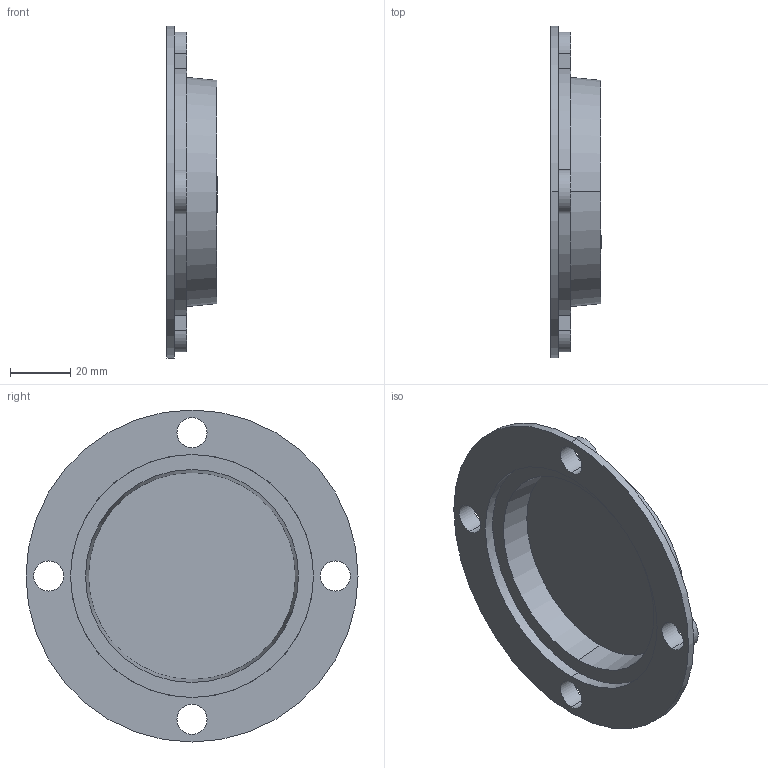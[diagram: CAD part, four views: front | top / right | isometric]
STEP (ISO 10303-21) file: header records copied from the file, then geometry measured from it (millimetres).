
FILE_DESCRIPTION (( 'STEP AP203' ), '1' );
FILE_NAME ('Abdeckkappe_063.STEP', '2018-12-05T10:57:08', ( '' ), ( '' ), 'SwSTEP 2.0', 'SolidWorks 2012', '' );
FILE_SCHEMA (( 'CONFIG_CONTROL_DESIGN' ));
Length unit declared in the file: millimetre
Products named in the file (1): Abdeckkappe_063
Bounding box: 16.6 x 110 x 110 mm (x, y, z)
Volume: 34068.7 mm3; surface area: 26398.8 mm2
Topology: 1 solids, 1 shells, 106 faces, 290 edges, 196 vertices
Faces by surface type: plane 42, bspline 39, cylinder 21, cone 4
Entity records: 5599 total; most frequent: CARTESIAN_POINT 3000, ORIENTED_EDGE 580, DIRECTION 422, EDGE_CURVE 290, VERTEX_POINT 196, AXIS2_PLACEMENT_3D 142, LINE 138, VECTOR 138
